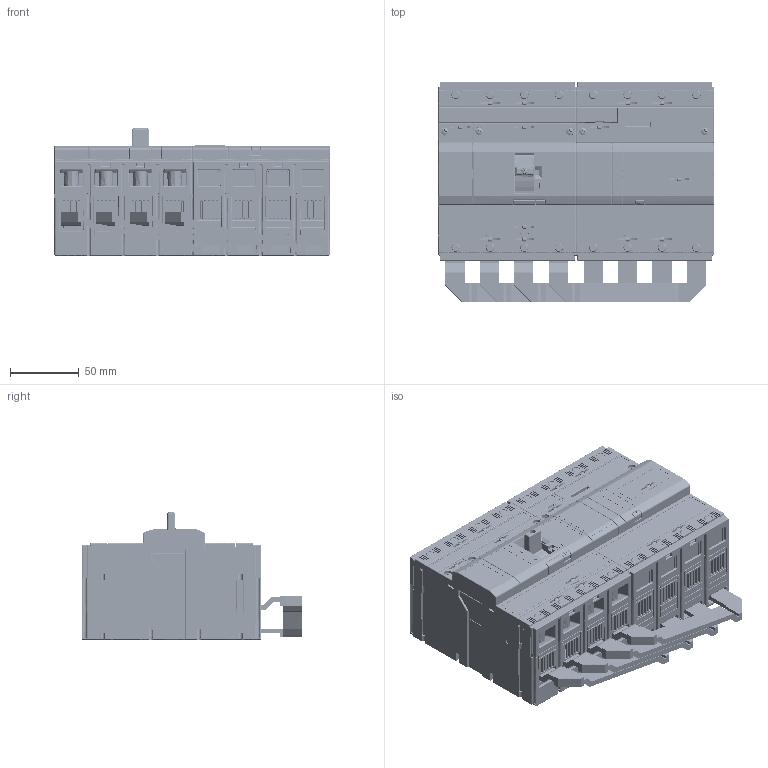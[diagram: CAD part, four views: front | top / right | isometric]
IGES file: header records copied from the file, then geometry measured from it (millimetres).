
Start section: SolidWorks IGES file using analytic representation for surfaces
Global section: file name: U:\14_RD\05_Technical_office\04_Office\Hrdinova\3D modely - IGES\Modeion - BC160\BC160NT405_406__RCD-BC4.IGS; native system: SolidWorks 2011; preprocessor: SolidWorks 2011; author: adhrja3; date: 170619.063159; units: millimetre
Bounding box: 200 x 160 x 92.5 mm (x, y, z)
Surface area: 349067 mm2 (no closed solid volume)
Topology: 0 solids, 0 shells, 12033 faces, 97445 edges, 97322 vertices
Faces by surface type: bspline 7633, revolution 4400
